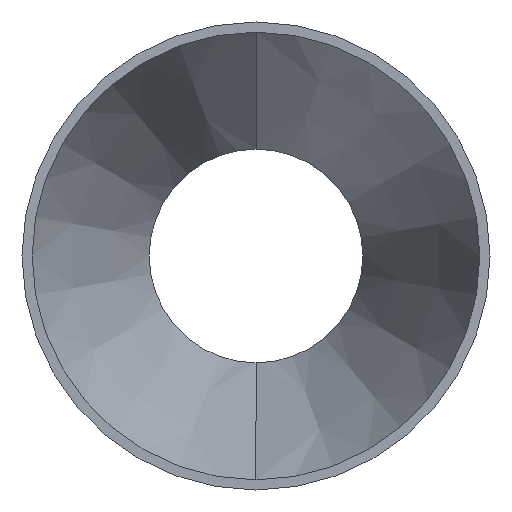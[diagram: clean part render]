
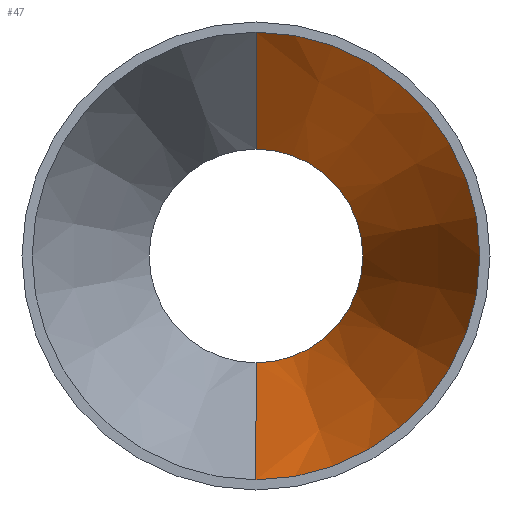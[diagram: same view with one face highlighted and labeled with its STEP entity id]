
A CAD part, left-side view. The second image highlights one B-rep face of the part: STEP entity #47.
In plain terms, the highlighted conical face has half-angle 21.474 degrees and reference radius 36.45 mm.
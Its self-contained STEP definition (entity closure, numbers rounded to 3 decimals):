
#21 = CARTESIAN_POINT ( 'NONE',  ( 9.525, 0., 0. ) ) ;
#23 = CARTESIAN_POINT ( 'NONE',  ( 9.525, 0., -36.45 ) ) ;
#27 = DIRECTION ( 'NONE',  ( -1., 0., 0. ) ) ;
#40 = VERTEX_POINT ( 'NONE', #375 ) ;
#42 = VERTEX_POINT ( 'NONE', #94 ) ;
#45 = CIRCLE ( 'NONE', #185, 36.45 ) ;
#47 = ADVANCED_FACE ( 'NONE', ( #101 ), #85, .F. ) ;
#60 = VECTOR ( 'NONE', #123, 1000. ) ;
#85 = CONICAL_SURFACE ( 'NONE', #359, 36.45, 0.375 ) ;
#94 = CARTESIAN_POINT ( 'NONE',  ( 57.95, 0., 17.4 ) ) ;
#101 = FACE_OUTER_BOUND ( 'NONE', #362, .T. ) ;
#118 = CARTESIAN_POINT ( 'NONE',  ( 9.525, 0., 36.45 ) ) ;
#121 = ORIENTED_EDGE ( 'NONE', *, *, #229, .T. ) ;
#123 = DIRECTION ( 'NONE',  ( -0.931, 0., 0.366 ) ) ;
#135 = DIRECTION ( 'NONE',  ( 0., 0., 1. ) ) ;
#155 = ORIENTED_EDGE ( 'NONE', *, *, #327, .F. ) ;
#162 = CARTESIAN_POINT ( 'NONE',  ( 57.95, 0., 0. ) ) ;
#163 = AXIS2_PLACEMENT_3D ( 'NONE', #162, #350, #135 ) ;
#185 = AXIS2_PLACEMENT_3D ( 'NONE', #265, #27, #233 ) ;
#208 = CARTESIAN_POINT ( 'NONE',  ( 9.525, 0., -36.45 ) ) ;
#221 = EDGE_CURVE ( 'NONE', #40, #42, #315, .T. ) ;
#227 = LINE ( 'NONE', #409, #60 ) ;
#229 = EDGE_CURVE ( 'NONE', #284, #396, #45, .T. ) ;
#233 = DIRECTION ( 'NONE',  ( 0., 0., 1. ) ) ;
#235 = DIRECTION ( 'NONE',  ( 0., 0., 1. ) ) ;
#265 = CARTESIAN_POINT ( 'NONE',  ( 9.525, 0., 0. ) ) ;
#274 = ORIENTED_EDGE ( 'NONE', *, *, #221, .F. ) ;
#276 = DIRECTION ( 'NONE',  ( -0.931, 0., -0.366 ) ) ;
#284 = VERTEX_POINT ( 'NONE', #23 ) ;
#297 = DIRECTION ( 'NONE',  ( -1., 0., 0. ) ) ;
#315 = CIRCLE ( 'NONE', #163, 17.4 ) ;
#327 = EDGE_CURVE ( 'NONE', #42, #396, #227, .T. ) ;
#350 = DIRECTION ( 'NONE',  ( -1., 0., 0. ) ) ;
#359 = AXIS2_PLACEMENT_3D ( 'NONE', #21, #297, #235 ) ;
#362 = EDGE_LOOP ( 'NONE', ( #274, #379, #121, #155 ) ) ;
#375 = CARTESIAN_POINT ( 'NONE',  ( 57.95, 0., -17.4 ) ) ;
#379 = ORIENTED_EDGE ( 'NONE', *, *, #404, .T. ) ;
#390 = VECTOR ( 'NONE', #276, 1000. ) ;
#396 = VERTEX_POINT ( 'NONE', #118 ) ;
#404 = EDGE_CURVE ( 'NONE', #40, #284, #410, .T. ) ;
#409 = CARTESIAN_POINT ( 'NONE',  ( 9.525, 0., 36.45 ) ) ;
#410 = LINE ( 'NONE', #208, #390 ) ;
